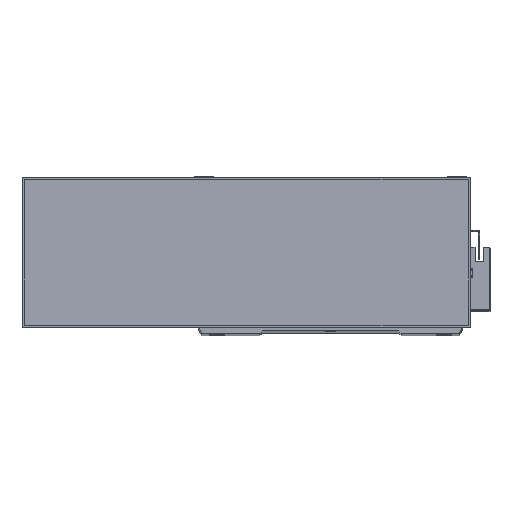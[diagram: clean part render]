
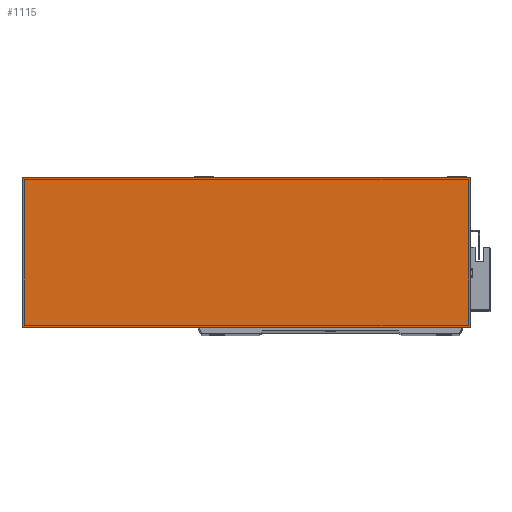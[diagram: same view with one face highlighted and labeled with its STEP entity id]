
A CAD part, top view. The second image highlights one B-rep face of the part: STEP entity #1115.
In plain terms, the highlighted planar face has unit normal (0, 0, 1).
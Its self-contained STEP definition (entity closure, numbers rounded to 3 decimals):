
#747 = VERTEX_POINT ( 'NONE', #8735 ) ;
#1115 = ADVANCED_FACE ( 'NONE', ( #23470 ), #12262, .F. ) ;
#1276 = DIRECTION ( 'NONE',  ( -1., 0., 0. ) ) ;
#2349 = LINE ( 'NONE', #11866, #25145 ) ;
#2862 = VECTOR ( 'NONE', #26078, 1000. ) ;
#2903 = VERTEX_POINT ( 'NONE', #10508 ) ;
#3414 = VERTEX_POINT ( 'NONE', #8293 ) ;
#3734 = LINE ( 'NONE', #20454, #20644 ) ;
#5034 = DIRECTION ( 'NONE',  ( 0., 1., 0. ) ) ;
#5344 = DIRECTION ( 'NONE',  ( -1., 0., 0. ) ) ;
#8293 = CARTESIAN_POINT ( 'NONE',  ( 277., 93., 50. ) ) ;
#8438 = ORIENTED_EDGE ( 'NONE', *, *, #12345, .T. ) ;
#8629 = EDGE_CURVE ( 'NONE', #18064, #2903, #13897, .T. ) ;
#8735 = CARTESIAN_POINT ( 'NONE',  ( 277., 0., 50. ) ) ;
#9025 = CARTESIAN_POINT ( 'NONE',  ( 0., 93., 50. ) ) ;
#9771 = DIRECTION ( 'NONE',  ( 1., 0., 0. ) ) ;
#10047 = CARTESIAN_POINT ( 'NONE',  ( 0., 0., 50. ) ) ;
#10508 = CARTESIAN_POINT ( 'NONE',  ( 0., 0., 50. ) ) ;
#10635 = CARTESIAN_POINT ( 'NONE',  ( 0., 0., 50. ) ) ;
#11866 = CARTESIAN_POINT ( 'NONE',  ( 0., 93., 50. ) ) ;
#11971 = CARTESIAN_POINT ( 'NONE',  ( 0., 0., 50. ) ) ;
#12262 = PLANE ( 'NONE',  #23173 ) ;
#12345 = EDGE_CURVE ( 'NONE', #3414, #18064, #2349, .T. ) ;
#12784 = EDGE_CURVE ( 'NONE', #747, #3414, #3734, .T. ) ;
#13272 = VECTOR ( 'NONE', #9771, 1000. ) ;
#13661 = ORIENTED_EDGE ( 'NONE', *, *, #21974, .T. ) ;
#13897 = LINE ( 'NONE', #10635, #2862 ) ;
#14419 = ORIENTED_EDGE ( 'NONE', *, *, #12784, .T. ) ;
#14467 = DIRECTION ( 'NONE',  ( 0., 0., -1. ) ) ;
#17759 = ORIENTED_EDGE ( 'NONE', *, *, #8629, .T. ) ;
#18064 = VERTEX_POINT ( 'NONE', #9025 ) ;
#19169 = LINE ( 'NONE', #11971, #13272 ) ;
#20454 = CARTESIAN_POINT ( 'NONE',  ( 277., 0., 50. ) ) ;
#20644 = VECTOR ( 'NONE', #5034, 1000. ) ;
#21974 = EDGE_CURVE ( 'NONE', #2903, #747, #19169, .T. ) ;
#22988 = EDGE_LOOP ( 'NONE', ( #17759, #13661, #14419, #8438 ) ) ;
#23173 = AXIS2_PLACEMENT_3D ( 'NONE', #10047, #14467, #1276 ) ;
#23470 = FACE_OUTER_BOUND ( 'NONE', #22988, .T. ) ;
#25145 = VECTOR ( 'NONE', #5344, 1000. ) ;
#26078 = DIRECTION ( 'NONE',  ( 0., -1., 0. ) ) ;
